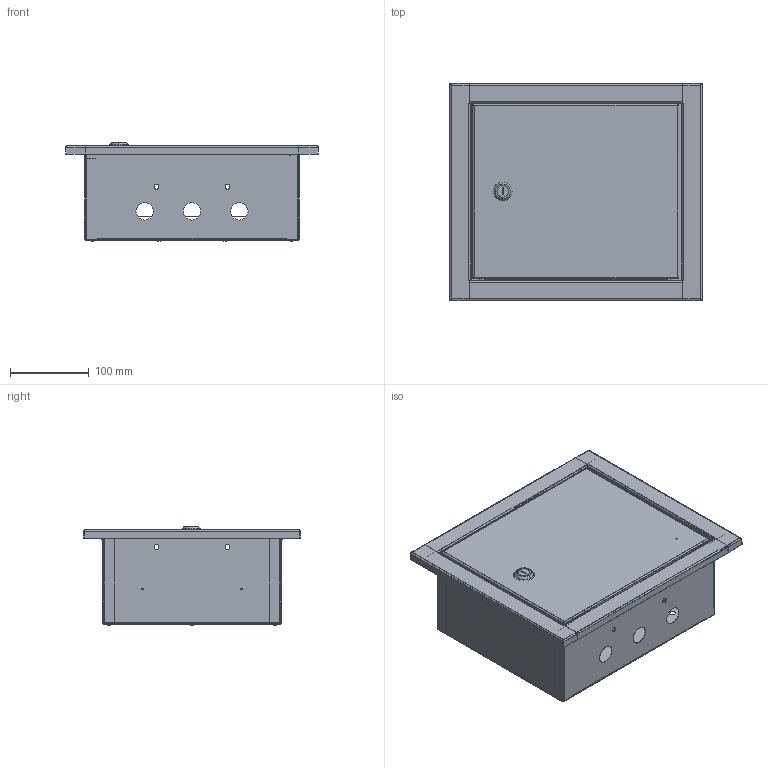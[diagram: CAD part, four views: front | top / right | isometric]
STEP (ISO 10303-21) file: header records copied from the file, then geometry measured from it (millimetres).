
FILE_DESCRIPTION (( 'STEP AP214' ), '1' );
FILE_NAME ('ÙÐÂ-12 IP31 275õ320õ120-ÊÝÀÇ.STEP', '2023-01-24T13:20:10', ( '' ), ( '' ), 'SwSTEP 2.0', 'SolidWorks 2018', '' );
FILE_SCHEMA (( 'AUTOMOTIVE_DESIGN' ));
Length unit declared in the file: millimetre
Products named in the file (1): ÙÐÂ-12 IP31 275õ320õ120-ÊÝÀÇ
Bounding box: 320 x 275 x 125.29 mm (x, y, z)
Surface area: 642497.4 mm2 (no closed solid volume)
Topology: 0 solids, 46 shells, 323 faces, 1056 edges, 725 vertices
Faces by surface type: plane 156, cylinder 116, sphere 20, bspline 16, cone 15
Entity records: 15876 total; most frequent: CARTESIAN_POINT 3258, DIRECTION 1933, ORIENTED_EDGE 1545, EDGE_CURVE 1026, VERTEX_POINT 715, AXIS2_PLACEMENT_3D 695, LINE 543, VECTOR 543
